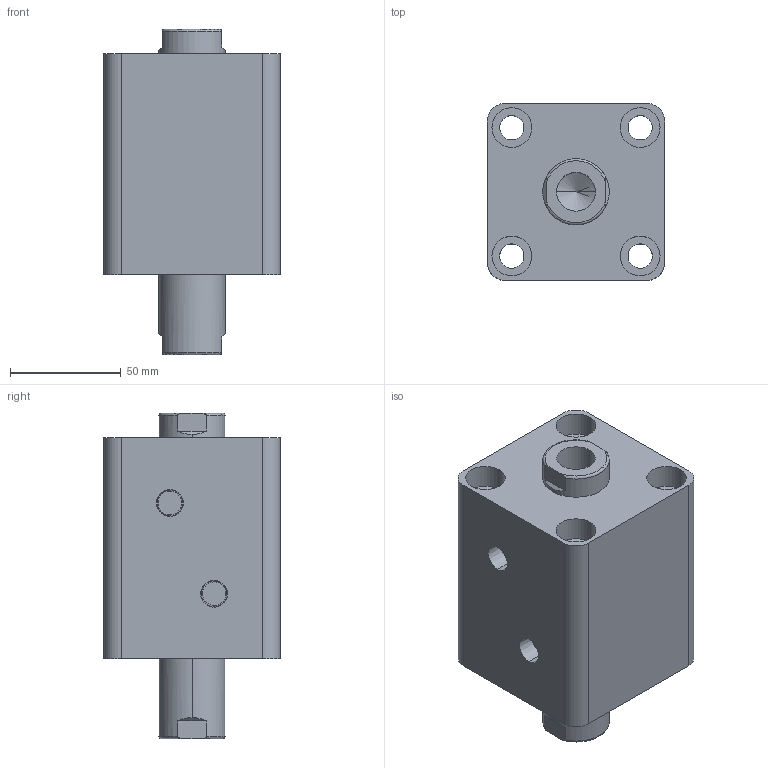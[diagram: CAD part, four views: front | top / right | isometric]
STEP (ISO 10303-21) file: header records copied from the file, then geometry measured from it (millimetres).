
FILE_DESCRIPTION (( 'STEP AP203' ), '1' );
FILE_NAME ('HTB-SW50-25N.STEP', '2019-10-07T09:18:35', ( '微软用户' ), ( '微软中国' ), 'SwSTEP 2.0', 'SolidWorks 2012', '' );
FILE_SCHEMA (( 'CONFIG_CONTROL_DESIGN' ));
Length unit declared in the file: millimetre
Products named in the file (3): HTB-SW50-25N; HTB-SW50-25N活塞杆; HTB-SW50-25掛极
Assembly tree (2 placements, depth 2):
  HTB-SW50-25N
    HTB-SW50-25掛极
    HTB-SW50-25N活塞杆
Bounding box: 80 x 80 x 147 mm (x, y, z)
Volume: 568889.7 mm3; surface area: 94226.7 mm2
Topology: 2 solids, 2 shells, 100 faces, 228 edges, 146 vertices
Faces by surface type: cylinder 48, plane 32, torus 12, cone 8
Entity records: 3237 total; most frequent: CARTESIAN_POINT 595, DIRECTION 542, ORIENTED_EDGE 448, AXIS2_PLACEMENT_3D 229, EDGE_CURVE 224, VERTEX_POINT 146, EDGE_LOOP 128, CIRCLE 124
